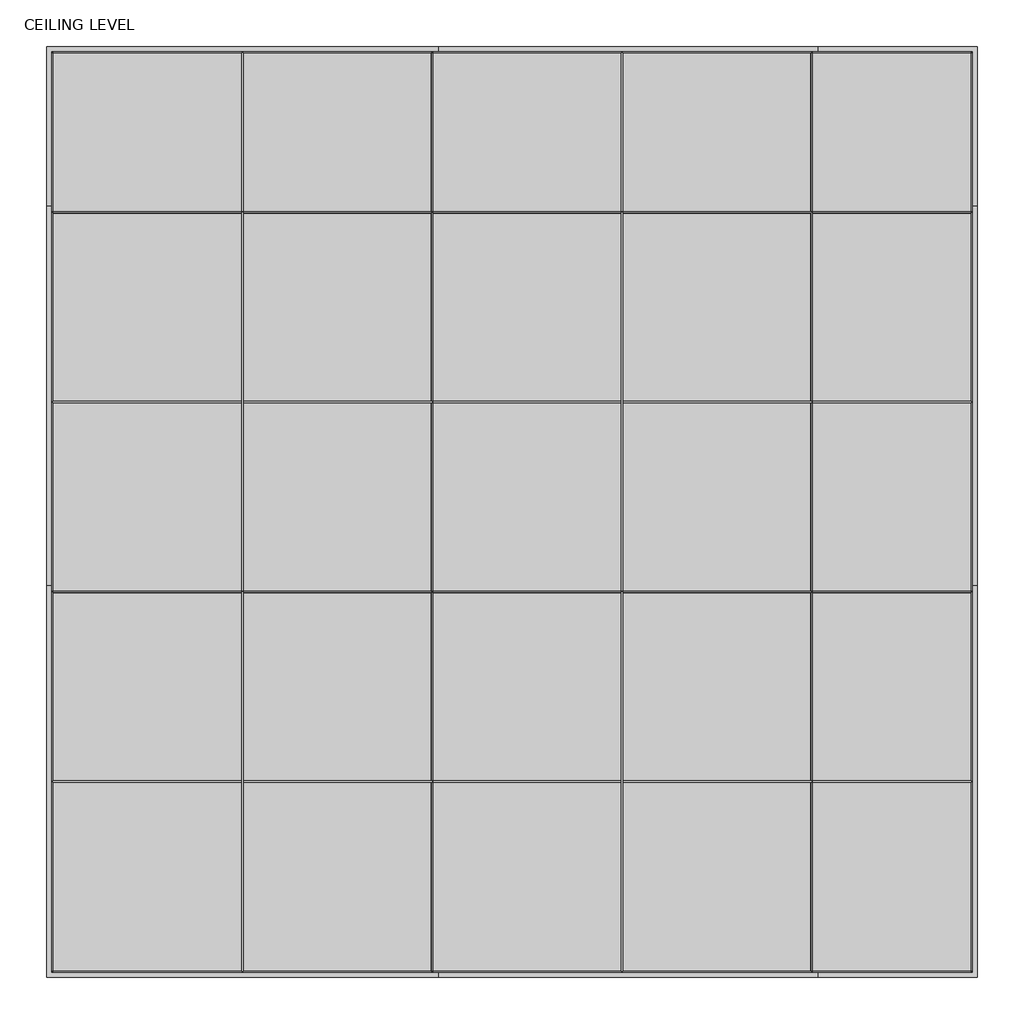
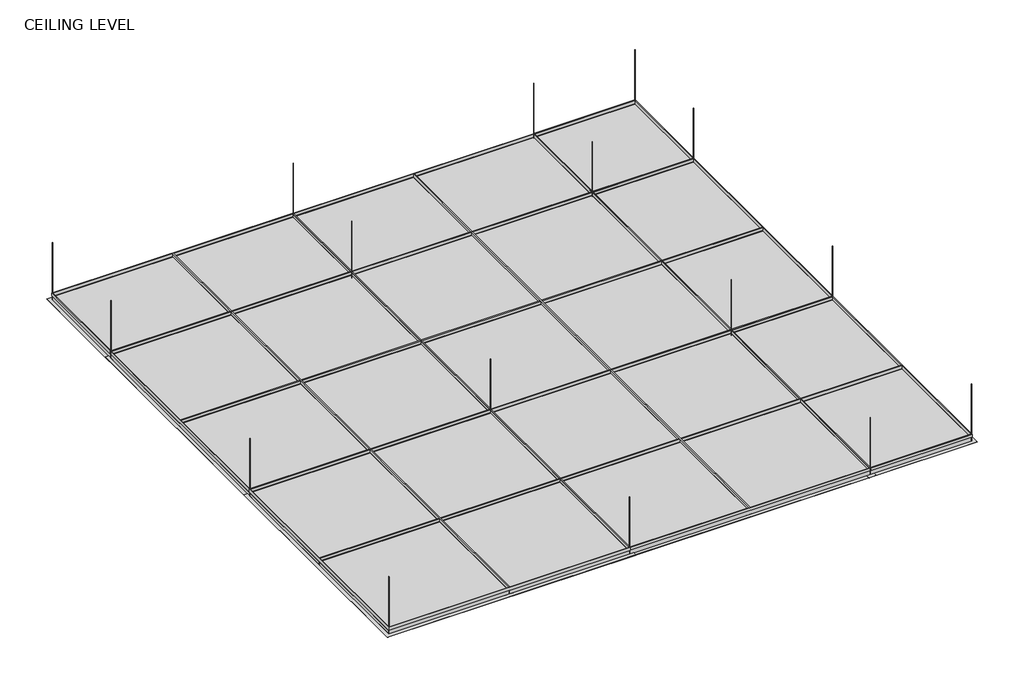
# One storey: 9 plates.
"""IFC4 building model written with IfcOpenShell, lengths in millimetres."""

import ifcopenshell
import ifcopenshell.guid

model = None  # the IFC model being written
_history = None  # IfcOwnerHistory: only IFC2X3 demands one
_inside = {}  # id of a spatial element -> (the spatial element, [elements in it])
_under = {}  # id of a project, library or spatial element -> (it, [spatial elements below it])
_declared = {}  # id of a project -> (the project, [libraries it declares])
_typed = {}  # id of a type object -> (the type object, [elements of that type])
_made_of = {}  # id of a material, layer set ... -> (it, [elements and type objects made of it])


def new_model(schema):
    """Start an empty IFC model of exactly this schema.

    Asked for "IFC4X3", IfcOpenShell would pick the latest addendum, in which some entities
    have other attributes; the version numbers below select the first issue.
    IFC2X3 requires an IfcOwnerHistory on every rooted entity: one is made here for all.
    """
    global model, _history
    if schema == "IFC4X3":
        model = ifcopenshell.file(schema_version=(4, 3, 0, 0))
    else:
        model = ifcopenshell.file(schema=schema)
    _inside.clear()
    _under.clear()
    _declared.clear()
    _typed.clear()
    _made_of.clear()
    _history = None
    if model.schema == "IFC2X3":
        org = make("IfcOrganization", Name="unknown")
        user = make(
            "IfcPersonAndOrganization",
            ThePerson=make("IfcPerson", FamilyName="unknown"),
            TheOrganization=org,
        )
        app = make(
            "IfcApplication",
            ApplicationDeveloper=org,
            Version="unknown",
            ApplicationFullName="unknown",
            ApplicationIdentifier="unknown",
        )
        _history = make(
            "IfcOwnerHistory",
            OwningUser=user,
            OwningApplication=app,
            ChangeAction="ADDED",
            CreationDate=0,
        )
    return model


def make(cls, **values):
    """One entity of the class cls with the attributes given. An attribute that is None is left unset."""
    return model.create_entity(
        cls, **{name: value for name, value in values.items() if value is not None}
    )


def rooted(cls, **values):
    """An entity with a GlobalId (a new one), such as an element, a storey or a relation."""
    return make(cls, GlobalId=ifcopenshell.guid.new(), OwnerHistory=_history, **values)


def si_unit(unit_type, name, prefix=None):
    """IfcSIUnit, for example si_unit("LENGTHUNIT", "METRE", prefix="MILLI")."""
    return make("IfcSIUnit", UnitType=unit_type, Prefix=prefix, Name=name)


def assignment(units):
    """IfcUnitAssignment: the units of a project."""
    return None if units is None else make("IfcUnitAssignment", Units=units)


def point(xyz):
    """IfcCartesianPoint."""
    return None if xyz is None else make("IfcCartesianPoint", Coordinates=xyz)


def direction(xyz):
    """IfcDirection."""
    return None if xyz is None else make("IfcDirection", DirectionRatios=xyz)


def frame(location, z_axis=None, x_axis=None):
    """IfcAxis2Placement3D, a coordinate frame: its origin and axes. An axis left out is left unset."""
    return make(
        "IfcAxis2Placement3D",
        Location=point(location),
        Axis=direction(z_axis),
        RefDirection=direction(x_axis),
    )


def frame_2d(location, x_axis=None):
    """IfcAxis2Placement2D, a coordinate frame in the plane: its origin and x axis."""
    return make(
        "IfcAxis2Placement2D", Location=point(location), RefDirection=direction(x_axis)
    )


def origin():
    """The frame at (0, 0, 0) with its axes left unset."""
    return frame((0.0, 0.0, 0.0))


def origin_with_axes():
    """The frame at (0, 0, 0) with the z axis (0, 0, 1) and the x axis (1, 0, 0) written out."""
    return frame((0.0, 0.0, 0.0), z_axis=(0.0, 0.0, 1.0), x_axis=(1.0, 0.0, 0.0))


def place(relative_to, where):
    """IfcLocalPlacement: puts the frame where relative to a parent placement (None: the world)."""
    return make(
        "IfcLocalPlacement", PlacementRelTo=relative_to, RelativePlacement=where
    )


def context(
    kind, dimensions, precision=None, world=None, true_north=None, identifier=None
):
    """IfcGeometricRepresentationContext, for example the 3D "Model" context."""
    return make(
        "IfcGeometricRepresentationContext",
        ContextIdentifier=identifier,
        ContextType=kind,
        CoordinateSpaceDimension=dimensions,
        Precision=precision,
        WorldCoordinateSystem=world,
        TrueNorth=true_north,
    )


def project(units=None, contexts=None):
    """IfcProject with its units and contexts."""
    return rooted(
        "IfcProject",
        Name="project",
        RepresentationContexts=contexts,
        UnitsInContext=assignment(units),
    )


def spatial(cls, under=None, at=None, **own):
    """A site, building, storey or space (cls), placed at a placement, below another one or the project."""
    s = rooted(cls, ObjectPlacement=at, **own)
    if under is not None:
        _under.setdefault(under.id(), (under, []))[1].append(s)
    return s


def polyline(points):
    """IfcPolyline through the points."""
    return make("IfcPolyline", Points=[point(p) for p in points])


def circle_curve(where, radius):
    """IfcCircle in the frame where."""
    return make("IfcCircle", Position=where, Radius=radius)


def trimmed(basis, trim1, trim2, sense, master):
    """IfcTrimmedCurve: the piece of a basis curve between two trims."""
    return make(
        "IfcTrimmedCurve",
        BasisCurve=basis,
        Trim1=trim1,
        Trim2=trim2,
        SenseAgreement=sense,
        MasterRepresentation=master,
    )


def segment(curve, same_sense, transition):
    """IfcCompositeCurveSegment."""
    return make(
        "IfcCompositeCurveSegment",
        Transition=transition,
        SameSense=same_sense,
        ParentCurve=curve,
    )


def composite_curve(segments, self_intersect=None):
    """IfcCompositeCurve: segments joined end to end."""
    return make("IfcCompositeCurve", Segments=segments, SelfIntersect=self_intersect)


def outline(outer, holes=None, kind="AREA"):
    """IfcArbitraryClosedProfileDef: a profile drawn as a closed curve; with holes, ...WithVoids."""
    if holes is None:
        return make("IfcArbitraryClosedProfileDef", ProfileType=kind, OuterCurve=outer)
    return make(
        "IfcArbitraryProfileDefWithVoids",
        ProfileType=kind,
        OuterCurve=outer,
        InnerCurves=holes,
    )


def extrude(swept, where, along, depth):
    """IfcExtrudedAreaSolid: the profile swept, set in the frame where, extruded along a direction by depth."""
    return make(
        "IfcExtrudedAreaSolid",
        SweptArea=swept,
        Position=where,
        ExtrudedDirection=direction(along),
        Depth=depth,
    )


def faces_of(points, faces, orient=None, outer=None):
    """IfcFace entities. A face is a list of loops; a loop is a list of indices into points, from 0.

    orient and outer hold one flag for each loop. By default every Orientation is true, the
    first loop of a face is its IfcFaceOuterBound and the others are IfcFaceBound.
    """
    made = []
    for i, loops in enumerate(faces):
        bounds = []
        for j, loop in enumerate(loops):
            is_outer = j == 0 if outer is None else outer[i][j]
            bounds.append(
                make(
                    "IfcFaceOuterBound" if is_outer else "IfcFaceBound",
                    Bound=make("IfcPolyLoop", Polygon=[points[k] for k in loop]),
                    Orientation=True if orient is None else orient[i][j],
                )
            )
        made.append(make("IfcFace", Bounds=bounds))
    return made


def faceted_brep(points, faces, orient=None, outer=None, voids=None):
    """IfcFacetedBrep: a solid bounded by flat faces; with voids (closed shells), ...WithVoids."""
    shared = [point(p) for p in points]
    hull = make("IfcClosedShell", CfsFaces=faces_of(shared, faces, orient, outer))
    if voids is None:
        return make("IfcFacetedBrep", Outer=hull)
    return make(
        "IfcFacetedBrepWithVoids",
        Outer=hull,
        Voids=[
            make(cls, CfsFaces=faces_of(shared, fs, o, b)) for cls, fs, o, b in voids
        ],
    )


def shape(context_of_items, identifier, shape_type, items):
    """IfcShapeRepresentation: the items that make up one representation, for example the "Body"."""
    return make(
        "IfcShapeRepresentation",
        ContextOfItems=context_of_items,
        RepresentationIdentifier=identifier,
        RepresentationType=shape_type,
        Items=items,
    )


def source(mapping_origin, context_of_items, identifier, shape_type, items):
    """IfcRepresentationMap: a shape defined once, which mapped items show again and again."""
    return make(
        "IfcRepresentationMap",
        MappingOrigin=mapping_origin,
        MappedRepresentation=shape(context_of_items, identifier, shape_type, items),
    )


def transform(
    local_origin,
    x_axis=None,
    y_axis=None,
    z_axis=None,
    scale=None,
    scale2=None,
    scale3=None,
    uniform=True,
):
    """IfcCartesianTransformationOperator3D, or its non-uniform kind. x_axis, y_axis, z_axis: its Axis1, 2, 3."""
    if uniform:
        return make(
            "IfcCartesianTransformationOperator3D",
            Axis1=direction(x_axis),
            Axis2=direction(y_axis),
            LocalOrigin=point(local_origin),
            Scale=scale,
            Axis3=direction(z_axis),
        )
    return make(
        "IfcCartesianTransformationOperator3DnonUniform",
        Axis1=direction(x_axis),
        Axis2=direction(y_axis),
        LocalOrigin=point(local_origin),
        Scale=scale,
        Axis3=direction(z_axis),
        Scale2=scale2,
        Scale3=scale3,
    )


def mapped(mapping_source, mapping_target):
    """IfcMappedItem: shows the shape of a source again, moved by a transform."""
    return make(
        "IfcMappedItem", MappingSource=mapping_source, MappingTarget=mapping_target
    )


def made_of(thing, what):
    """Note that an element or type object is made of a material, layer set ...; save() writes the relation."""
    if what is not None:
        _made_of.setdefault(what.id(), (what, []))[1].append(thing)
    return thing


def element(
    cls,
    number,
    at=None,
    inside=None,
    cuts=None,
    type_object=None,
    material=None,
    context=None,
    identifier="Body",
    shape_type=None,
    held_by="IfcProductDefinitionShape",
    body=None,
    shapes=None,
    **own,
):
    """One element of the class cls, such as IfcWall. Its Tag is "e" and its number.

    at: its placement. inside: the storey or other place that contains it. cuts: it is an
    opening in that element (IfcRelVoidsElement). A single representation is given by context,
    identifier, shape_type and body (its items); several are given by shapes. held_by: the class
    of the entity that holds the representations. save() writes the other relations.
    """
    e = rooted(cls, Tag="e%d" % number, ObjectPlacement=at, **own)
    if body is not None:
        shapes = [shape(context, identifier, shape_type, body)]
    if shapes is not None:
        e.Representation = make(held_by, Representations=shapes)
    if inside is not None:
        _inside.setdefault(inside.id(), (inside, []))[1].append(e)
    if cuts is not None:
        rooted(
            "IfcRelVoidsElement", RelatingBuildingElement=cuts, RelatedOpeningElement=e
        )
    if type_object is not None:
        _typed.setdefault(type_object.id(), (type_object, []))[1].append(e)
    return made_of(e, material)


def aggregate(whole, parts):
    """IfcRelAggregates: a whole, such as a stair, and the parts it consists of."""
    return rooted("IfcRelAggregates", RelatingObject=whole, RelatedObjects=parts)


def save(model, path):
    """Write the relations noted so far, then the file.

    IfcRelAggregates (storeys below a building ...), IfcRelContainedInSpatialStructure (elements
    in a storey), IfcRelDefinesByType, IfcRelAssociatesMaterial and IfcRelDeclares: one each for
    every whole, place, type object, material and project.
    """
    for whole, parts in _under.values():
        aggregate(whole, parts)
    for where, things in _inside.values():
        rooted(
            "IfcRelContainedInSpatialStructure",
            RelatedElements=things,
            RelatingStructure=where,
        )
    for kind, things in _typed.values():
        rooted("IfcRelDefinesByType", RelatedObjects=things, RelatingType=kind)
    for what, things in _made_of.values():
        rooted("IfcRelAssociatesMaterial", RelatedObjects=things, RelatingMaterial=what)
    for by, libraries in _declared.values():
        rooted("IfcRelDeclares", RelatingContext=by, RelatedDefinitions=libraries)
    model.write(path)


def ceiling_panel_with_tee_and_cable_ties_ceiling_panel_with_tee_5080f121(model_context):
    return source(origin(), model_context, "Body", "SolidModel", [
        extrude(outline(composite_curve([segment(trimmed(circle_curve(frame_2d((1200.0, 600.0000002)), 0.5), [point((1200.0, 600.5000002))], [point((1200.0, 599.5000002))], False, "CARTESIAN"), True, "CONTINUOUS"), segment(trimmed(circle_curve(frame_2d((1200.0, 600.0000002)), 0.5), [point((1200.0, 599.5000002))], [point((1200.0, 600.5000002))], False, "CARTESIAN"), True, "CONTINUOUS")], self_intersect=False)), frame((0.0, -300.0, 0.0), z_axis=(0.0, 1.0, 0.0), x_axis=(0.0, 0.0, 1.0)), (0.0, 0.0, 1.0), 300.0),
        extrude(outline(composite_curve([segment(trimmed(circle_curve(frame_2d((1200.0, -600.0000002)), 0.5), [point((1200.0, -599.5000002))], [point((1200.0, -600.5000002))], False, "CARTESIAN"), True, "CONTINUOUS"), segment(trimmed(circle_curve(frame_2d((1200.0, -600.0000002)), 0.5), [point((1200.0, -600.5000002))], [point((1200.0, -599.5000002))], False, "CARTESIAN"), True, "CONTINUOUS")], self_intersect=False)), frame((0.0, -300.0, 0.0), z_axis=(0.0, 1.0, 0.0), x_axis=(0.0, 0.0, 1.0)), (0.0, 0.0, 1.0), 300.0),
        extrude(outline(composite_curve([segment(trimmed(circle_curve(frame_2d((0.0, 600.0000002)), 0.5), [point((0.0, 600.5000002))], [point((0.0, 599.5000002))], False, "CARTESIAN"), True, "CONTINUOUS"), segment(trimmed(circle_curve(frame_2d((0.0, 600.0000002)), 0.5), [point((0.0, 599.5000002))], [point((0.0, 600.5000002))], False, "CARTESIAN"), True, "CONTINUOUS")], self_intersect=False)), frame((0.0, -300.0, 0.0), z_axis=(0.0, 1.0, 0.0), x_axis=(0.0, 0.0, 1.0)), (0.0, 0.0, 1.0), 300.0),
        extrude(outline(composite_curve([segment(trimmed(circle_curve(frame_2d((0.0, -600.0000002)), 0.5), [point((0.0, -599.5000002))], [point((0.0, -600.5000002))], False, "CARTESIAN"), True, "CONTINUOUS"), segment(trimmed(circle_curve(frame_2d((0.0, -600.0000002)), 0.5), [point((0.0, -600.5000002))], [point((0.0, -599.5000002))], False, "CARTESIAN"), True, "CONTINUOUS")], self_intersect=False)), frame((0.0, -300.0, 0.0), z_axis=(0.0, 1.0, 0.0), x_axis=(0.0, 0.0, 1.0)), (0.0, 0.0, 1.0), 300.0),
        extrude(outline(polyline([(19.0, 2.0), (19.0, 1.0), (0.5, 1.0), (0.5, -20.0), (2.5, -20.0), (2.5, -34.0), (-2.5, -34.0), (-2.5, -20.0), (-0.5, -20.0), (-0.5, 1.0), (-19.0, 1.0), (-19.0, 2.0), (19.0, 2.0)])), origin_with_axes(), (0.0, 0.0, 1.0), 1200.0),
        extrude(outline(polyline([(2.0, 619.0), (2.0, 581.0), (1.0, 581.0), (1.0, 599.5), (-20.0, 599.5), (-20.0, 597.5), (-34.0, 597.5), (-34.0, 602.5), (-20.0, 602.5), (-20.0, 600.5), (1.0, 600.5), (1.0, 619.0), (2.0, 619.0)])), frame((-600.0000002, 0.0, 0.0), z_axis=(1.0, 0.0, 0.0), x_axis=(0.0, 1.0, 0.0)), (0.0, 0.0, 1.0), 1200.0000003),
        faceted_brep([(581.0000002, 1.0, 1181.0), (581.0000002, 2.0, 1181.0), (581.0000002, 2.0, 19.0), (581.0000002, 1.0, 19.0), (599.5000002, -20.0, 1199.5), (599.5000002, 1.0, 1199.5), (599.5000002, 1.0, 0.5), (599.5000002, -20.0, 0.5), (597.5000002, -34.0, 1197.5), (597.5000002, -20.0, 1197.5), (597.5000002, -20.0, 2.5), (597.5000002, -34.0, 2.5), (602.5000002, -20.0, 1202.5), (602.5000002, -34.0, 1202.5), (602.5000002, -34.0, -2.5), (602.5000002, -20.0, -2.5), (600.5000002, 1.0, 1200.5), (600.5000002, -20.0, 1200.5), (600.5000002, -20.0, -0.5), (600.5000002, 1.0, -0.5), (619.0000002, 2.0, 1219.0), (619.0000002, 1.0, 1219.0), (619.0000002, 1.0, -19.0), (619.0000002, 2.0, -19.0), (-581.0000002, 2.0, 19.0), (-581.0000002, 1.0, 19.0), (-599.5000002, 1.0, 0.5), (-599.5000002, -20.0, 0.5), (-597.5000002, -20.0, 2.5), (-597.5000002, -34.0, 2.5), (-602.5000002, -34.0, -2.5), (-602.5000002, -20.0, -2.5), (-600.5000002, -20.0, -0.5), (-600.5000002, 1.0, -0.5), (-619.0000002, 1.0, -19.0), (-619.0000002, 2.0, -19.0), (-581.0000002, 2.0, 1181.0), (-581.0000002, 1.0, 1181.0), (-599.5000002, 1.0, 1199.5), (-599.5000002, -20.0, 1199.5), (-597.5000002, -20.0, 1197.5), (-597.5000002, -34.0, 1197.5), (-602.5000002, -34.0, 1202.5), (-602.5000002, -20.0, 1202.5), (-600.5000002, -20.0, 1200.5), (-600.5000002, 1.0, 1200.5), (-619.0000002, 1.0, 1219.0), (-619.0000002, 2.0, 1219.0)], [[[0, 1, 2, 3]], [[4, 5, 6, 7]], [[8, 9, 10, 11]], [[12, 13, 14, 15]], [[16, 17, 18, 19]], [[20, 21, 22, 23]], [[3, 2, 24, 25]], [[7, 6, 26, 27]], [[11, 10, 28, 29]], [[15, 14, 30, 31]], [[19, 18, 32, 33]], [[23, 22, 34, 35]], [[25, 24, 36, 37]], [[27, 26, 38, 39]], [[29, 28, 40, 41]], [[31, 30, 42, 43]], [[33, 32, 44, 45]], [[35, 34, 46, 47]], [[23, 35, 47, 20], [1, 36, 24, 2]], [[37, 36, 1, 0]], [[5, 38, 26, 6], [3, 25, 37, 0]], [[39, 38, 5, 4]], [[7, 27, 39, 4], [9, 40, 28, 10]], [[41, 40, 9, 8]], [[13, 42, 30, 14], [11, 29, 41, 8]], [[43, 42, 13, 12]], [[15, 31, 43, 12], [17, 44, 32, 18]], [[45, 44, 17, 16]], [[21, 46, 34, 22], [19, 33, 45, 16]], [[47, 46, 21, 20]]]),
        extrude(outline(polyline([(600.0000002, -15.0), (-600.0000002, -15.0), (-600.0000002, 0.0), (600.0000002, 0.0), (600.0000002, -15.0)])), origin_with_axes(), (0.0, 0.0, 1.0), 1200.0),
    ])


def ceiling_panel_with_tee_and_cable_ties_ceiling_panel_with_tee_7c64ddbc(model_context):
    return source(origin(), model_context, "Body", "SolidModel", [
        extrude(outline(composite_curve([segment(trimmed(circle_curve(frame_2d((505.0, 600.0000002)), 0.5), [point((505.0, 600.5000002))], [point((505.0, 599.5000002))], False, "CARTESIAN"), True, "CONTINUOUS"), segment(trimmed(circle_curve(frame_2d((505.0, 600.0000002)), 0.5), [point((505.0, 599.5000002))], [point((505.0, 600.5000002))], False, "CARTESIAN"), True, "CONTINUOUS")], self_intersect=False)), frame((0.0, -300.0, 0.0), z_axis=(0.0, 1.0, 0.0), x_axis=(0.0, 0.0, 1.0)), (0.0, 0.0, 1.0), 300.0),
        extrude(outline(composite_curve([segment(trimmed(circle_curve(frame_2d((505.0, -600.0000002)), 0.5), [point((505.0, -599.5000002))], [point((505.0, -600.5000002))], False, "CARTESIAN"), True, "CONTINUOUS"), segment(trimmed(circle_curve(frame_2d((505.0, -600.0000002)), 0.5), [point((505.0, -600.5000002))], [point((505.0, -599.5000002))], False, "CARTESIAN"), True, "CONTINUOUS")], self_intersect=False)), frame((0.0, -300.0, 0.0), z_axis=(0.0, 1.0, 0.0), x_axis=(0.0, 0.0, 1.0)), (0.0, 0.0, 1.0), 300.0),
        extrude(outline(composite_curve([segment(trimmed(circle_curve(frame_2d((0.0, 600.0000002)), 0.5), [point((0.0, 600.5000002))], [point((0.0, 599.5000002))], False, "CARTESIAN"), True, "CONTINUOUS"), segment(trimmed(circle_curve(frame_2d((0.0, 600.0000002)), 0.5), [point((0.0, 599.5000002))], [point((0.0, 600.5000002))], False, "CARTESIAN"), True, "CONTINUOUS")], self_intersect=False)), frame((0.0, -300.0, 0.0), z_axis=(0.0, 1.0, 0.0), x_axis=(0.0, 0.0, 1.0)), (0.0, 0.0, 1.0), 300.0),
        extrude(outline(composite_curve([segment(trimmed(circle_curve(frame_2d((0.0, -600.0000002)), 0.5), [point((0.0, -599.5000002))], [point((0.0, -600.5000002))], False, "CARTESIAN"), True, "CONTINUOUS"), segment(trimmed(circle_curve(frame_2d((0.0, -600.0000002)), 0.5), [point((0.0, -600.5000002))], [point((0.0, -599.5000002))], False, "CARTESIAN"), True, "CONTINUOUS")], self_intersect=False)), frame((0.0, -300.0, 0.0), z_axis=(0.0, 1.0, 0.0), x_axis=(0.0, 0.0, 1.0)), (0.0, 0.0, 1.0), 300.0),
        extrude(outline(polyline([(19.0, 2.0), (19.0, 1.0), (0.5, 1.0), (0.5, -20.0), (2.5, -20.0), (2.5, -34.0), (-2.5, -34.0), (-2.5, -20.0), (-0.5, -20.0), (-0.5, 1.0), (-19.0, 1.0), (-19.0, 2.0), (19.0, 2.0)])), origin_with_axes(), (0.0, 0.0, 1.0), 505.0),
        faceted_brep([(581.0000002, 1.0, 486.0), (581.0000002, 2.0, 486.0), (581.0000002, 2.0, 19.0), (581.0000002, 1.0, 19.0), (599.5000002, -20.0, 504.5), (599.5000002, 1.0, 504.5), (599.5000002, 1.0, 0.5), (599.5000002, -20.0, 0.5), (597.5000002, -34.0, 502.5), (597.5000002, -20.0, 502.5), (597.5000002, -20.0, 2.5), (597.5000002, -34.0, 2.5), (602.5000002, -20.0, 507.5), (602.5000002, -34.0, 507.5), (602.5000002, -34.0, -2.5), (602.5000002, -20.0, -2.5), (600.5000002, 1.0, 505.5), (600.5000002, -20.0, 505.5), (600.5000002, -20.0, -0.5), (600.5000002, 1.0, -0.5), (619.0000002, 2.0, 524.0), (619.0000002, 1.0, 524.0), (619.0000002, 1.0, -19.0), (619.0000002, 2.0, -19.0), (-581.0000002, 2.0, 19.0), (-581.0000002, 1.0, 19.0), (-599.5000002, 1.0, 0.5), (-599.5000002, -20.0, 0.5), (-597.5000002, -20.0, 2.5), (-597.5000002, -34.0, 2.5), (-602.5000002, -34.0, -2.5), (-602.5000002, -20.0, -2.5), (-600.5000002, -20.0, -0.5), (-600.5000002, 1.0, -0.5), (-619.0000002, 1.0, -19.0), (-619.0000002, 2.0, -19.0), (-581.0000002, 2.0, 486.0), (-581.0000002, 1.0, 486.0), (-599.5000002, 1.0, 504.5), (-599.5000002, -20.0, 504.5), (-597.5000002, -20.0, 502.5), (-597.5000002, -34.0, 502.5), (-602.5000002, -34.0, 507.5), (-602.5000002, -20.0, 507.5), (-600.5000002, -20.0, 505.5), (-600.5000002, 1.0, 505.5), (-619.0000002, 1.0, 524.0), (-619.0000002, 2.0, 524.0)], [[[0, 1, 2, 3]], [[4, 5, 6, 7]], [[8, 9, 10, 11]], [[12, 13, 14, 15]], [[16, 17, 18, 19]], [[20, 21, 22, 23]], [[3, 2, 24, 25]], [[7, 6, 26, 27]], [[11, 10, 28, 29]], [[15, 14, 30, 31]], [[19, 18, 32, 33]], [[23, 22, 34, 35]], [[25, 24, 36, 37]], [[27, 26, 38, 39]], [[29, 28, 40, 41]], [[31, 30, 42, 43]], [[33, 32, 44, 45]], [[35, 34, 46, 47]], [[23, 35, 47, 20], [1, 36, 24, 2]], [[37, 36, 1, 0]], [[5, 38, 26, 6], [3, 25, 37, 0]], [[39, 38, 5, 4]], [[7, 27, 39, 4], [9, 40, 28, 10]], [[41, 40, 9, 8]], [[13, 42, 30, 14], [11, 29, 41, 8]], [[43, 42, 13, 12]], [[15, 31, 43, 12], [17, 44, 32, 18]], [[45, 44, 17, 16]], [[21, 46, 34, 22], [19, 33, 45, 16]], [[47, 46, 21, 20]]]),
        extrude(outline(polyline([(600.0000002, -15.0), (-600.0000002, -15.0), (-600.0000002, 0.0), (600.0000002, 0.0), (600.0000002, -15.0)])), origin_with_axes(), (0.0, 0.0, 1.0), 505.0),
    ])


def ceiling_panel_with_tee_and_cable_ties_ceiling_panel_with_tee_bb24702a(model_context):
    return source(origin(), model_context, "Body", "SolidModel", [
        extrude(outline(composite_curve([segment(trimmed(circle_curve(frame_2d((1200.0, 252.4999998)), 0.5), [point((1200.0, 252.9999998))], [point((1200.0, 251.9999998))], False, "CARTESIAN"), True, "CONTINUOUS"), segment(trimmed(circle_curve(frame_2d((1200.0, 252.4999998)), 0.5), [point((1200.0, 251.9999998))], [point((1200.0, 252.9999998))], False, "CARTESIAN"), True, "CONTINUOUS")], self_intersect=False)), frame((0.0, -300.0, 0.0), z_axis=(0.0, 1.0, 0.0), x_axis=(0.0, 0.0, 1.0)), (0.0, 0.0, 1.0), 300.0),
        extrude(outline(composite_curve([segment(trimmed(circle_curve(frame_2d((1200.0, -252.4999998)), 0.5), [point((1200.0, -251.9999998))], [point((1200.0, -252.9999998))], False, "CARTESIAN"), True, "CONTINUOUS"), segment(trimmed(circle_curve(frame_2d((1200.0, -252.4999998)), 0.5), [point((1200.0, -252.9999998))], [point((1200.0, -251.9999998))], False, "CARTESIAN"), True, "CONTINUOUS")], self_intersect=False)), frame((0.0, -300.0, 0.0), z_axis=(0.0, 1.0, 0.0), x_axis=(0.0, 0.0, 1.0)), (0.0, 0.0, 1.0), 300.0),
        extrude(outline(composite_curve([segment(trimmed(circle_curve(frame_2d((0.0, 252.4999998)), 0.5), [point((0.0, 252.9999998))], [point((0.0, 251.9999998))], False, "CARTESIAN"), True, "CONTINUOUS"), segment(trimmed(circle_curve(frame_2d((0.0, 252.4999998)), 0.5), [point((0.0, 251.9999998))], [point((0.0, 252.9999998))], False, "CARTESIAN"), True, "CONTINUOUS")], self_intersect=False)), frame((0.0, -300.0, 0.0), z_axis=(0.0, 1.0, 0.0), x_axis=(0.0, 0.0, 1.0)), (0.0, 0.0, 1.0), 300.0),
        extrude(outline(composite_curve([segment(trimmed(circle_curve(frame_2d((0.0, -252.4999998)), 0.5), [point((0.0, -251.9999998))], [point((0.0, -252.9999998))], False, "CARTESIAN"), True, "CONTINUOUS"), segment(trimmed(circle_curve(frame_2d((0.0, -252.4999998)), 0.5), [point((0.0, -252.9999998))], [point((0.0, -251.9999998))], False, "CARTESIAN"), True, "CONTINUOUS")], self_intersect=False)), frame((0.0, -300.0, 0.0), z_axis=(0.0, 1.0, 0.0), x_axis=(0.0, 0.0, 1.0)), (0.0, 0.0, 1.0), 300.0),
        extrude(outline(polyline([(2.0, 619.0), (2.0, 581.0), (1.0, 581.0), (1.0, 599.5), (-20.0, 599.5), (-20.0, 597.5), (-34.0, 597.5), (-34.0, 602.5), (-20.0, 602.5), (-20.0, 600.5), (1.0, 600.5), (1.0, 619.0), (2.0, 619.0)])), frame((-252.4999998, 0.0, 0.0), z_axis=(1.0, 0.0, 0.0), x_axis=(0.0, 1.0, 0.0)), (0.0, 0.0, 1.0), 504.9999997),
        faceted_brep([(233.4999998, 1.0, 1181.0), (233.4999998, 2.0, 1181.0), (233.4999998, 2.0, 19.0), (233.4999998, 1.0, 19.0), (251.9999998, -20.0, 1199.5), (251.9999998, 1.0, 1199.5), (251.9999998, 1.0, 0.5), (251.9999998, -20.0, 0.5), (249.9999998, -34.0, 1197.5), (249.9999998, -20.0, 1197.5), (249.9999998, -20.0, 2.5), (249.9999998, -34.0, 2.5), (254.9999998, -20.0, 1202.5), (254.9999998, -34.0, 1202.5), (254.9999998, -34.0, -2.5), (254.9999998, -20.0, -2.5), (252.9999998, 1.0, 1200.5), (252.9999998, -20.0, 1200.5), (252.9999998, -20.0, -0.5), (252.9999998, 1.0, -0.5), (271.4999998, 2.0, 1219.0), (271.4999998, 1.0, 1219.0), (271.4999998, 1.0, -19.0), (271.4999998, 2.0, -19.0), (-233.4999998, 2.0, 19.0), (-233.4999998, 1.0, 19.0), (-251.9999998, 1.0, 0.5), (-251.9999998, -20.0, 0.5), (-249.9999998, -20.0, 2.5), (-249.9999998, -34.0, 2.5), (-254.9999998, -34.0, -2.5), (-254.9999998, -20.0, -2.5), (-252.9999998, -20.0, -0.5), (-252.9999998, 1.0, -0.5), (-271.4999998, 1.0, -19.0), (-271.4999998, 2.0, -19.0), (-233.4999998, 2.0, 1181.0), (-233.4999998, 1.0, 1181.0), (-251.9999998, 1.0, 1199.5), (-251.9999998, -20.0, 1199.5), (-249.9999998, -20.0, 1197.5), (-249.9999998, -34.0, 1197.5), (-254.9999998, -34.0, 1202.5), (-254.9999998, -20.0, 1202.5), (-252.9999998, -20.0, 1200.5), (-252.9999998, 1.0, 1200.5), (-271.4999998, 1.0, 1219.0), (-271.4999998, 2.0, 1219.0)], [[[0, 1, 2, 3]], [[4, 5, 6, 7]], [[8, 9, 10, 11]], [[12, 13, 14, 15]], [[16, 17, 18, 19]], [[20, 21, 22, 23]], [[3, 2, 24, 25]], [[7, 6, 26, 27]], [[11, 10, 28, 29]], [[15, 14, 30, 31]], [[19, 18, 32, 33]], [[23, 22, 34, 35]], [[25, 24, 36, 37]], [[27, 26, 38, 39]], [[29, 28, 40, 41]], [[31, 30, 42, 43]], [[33, 32, 44, 45]], [[35, 34, 46, 47]], [[23, 35, 47, 20], [1, 36, 24, 2]], [[37, 36, 1, 0]], [[5, 38, 26, 6], [3, 25, 37, 0]], [[39, 38, 5, 4]], [[7, 27, 39, 4], [9, 40, 28, 10]], [[41, 40, 9, 8]], [[13, 42, 30, 14], [11, 29, 41, 8]], [[43, 42, 13, 12]], [[15, 31, 43, 12], [17, 44, 32, 18]], [[45, 44, 17, 16]], [[21, 46, 34, 22], [19, 33, 45, 16]], [[47, 46, 21, 20]]]),
        extrude(outline(polyline([(252.4999998, -15.0), (-252.4999998, -15.0), (-252.4999998, 0.0), (252.4999998, 0.0), (252.4999998, -15.0)])), origin_with_axes(), (0.0, 0.0, 1.0), 1200.0),
    ])


def ceiling_panel_with_tee_and_cable_ties_ceiling_panel_with_tee_1653b4b1(model_context):
    return source(origin(), model_context, "Body", "SolidModel", [
        extrude(outline(composite_curve([segment(trimmed(circle_curve(frame_2d((505.0, 252.4999998)), 0.5), [point((505.0, 252.9999998))], [point((505.0, 251.9999998))], False, "CARTESIAN"), True, "CONTINUOUS"), segment(trimmed(circle_curve(frame_2d((505.0, 252.4999998)), 0.5), [point((505.0, 251.9999998))], [point((505.0, 252.9999998))], False, "CARTESIAN"), True, "CONTINUOUS")], self_intersect=False)), frame((0.0, -300.0, 0.0), z_axis=(0.0, 1.0, 0.0), x_axis=(0.0, 0.0, 1.0)), (0.0, 0.0, 1.0), 300.0),
        extrude(outline(composite_curve([segment(trimmed(circle_curve(frame_2d((505.0, -252.4999998)), 0.5), [point((505.0, -251.9999998))], [point((505.0, -252.9999998))], False, "CARTESIAN"), True, "CONTINUOUS"), segment(trimmed(circle_curve(frame_2d((505.0, -252.4999998)), 0.5), [point((505.0, -252.9999998))], [point((505.0, -251.9999998))], False, "CARTESIAN"), True, "CONTINUOUS")], self_intersect=False)), frame((0.0, -300.0, 0.0), z_axis=(0.0, 1.0, 0.0), x_axis=(0.0, 0.0, 1.0)), (0.0, 0.0, 1.0), 300.0),
        extrude(outline(composite_curve([segment(trimmed(circle_curve(frame_2d((0.0, 252.4999998)), 0.5), [point((0.0, 252.9999998))], [point((0.0, 251.9999998))], False, "CARTESIAN"), True, "CONTINUOUS"), segment(trimmed(circle_curve(frame_2d((0.0, 252.4999998)), 0.5), [point((0.0, 251.9999998))], [point((0.0, 252.9999998))], False, "CARTESIAN"), True, "CONTINUOUS")], self_intersect=False)), frame((0.0, -300.0, 0.0), z_axis=(0.0, 1.0, 0.0), x_axis=(0.0, 0.0, 1.0)), (0.0, 0.0, 1.0), 300.0),
        extrude(outline(composite_curve([segment(trimmed(circle_curve(frame_2d((0.0, -252.4999998)), 0.5), [point((0.0, -251.9999998))], [point((0.0, -252.9999998))], False, "CARTESIAN"), True, "CONTINUOUS"), segment(trimmed(circle_curve(frame_2d((0.0, -252.4999998)), 0.5), [point((0.0, -252.9999998))], [point((0.0, -251.9999998))], False, "CARTESIAN"), True, "CONTINUOUS")], self_intersect=False)), frame((0.0, -300.0, 0.0), z_axis=(0.0, 1.0, 0.0), x_axis=(0.0, 0.0, 1.0)), (0.0, 0.0, 1.0), 300.0),
        faceted_brep([(233.4999998, 1.0, 486.0), (233.4999998, 2.0, 486.0), (233.4999998, 2.0, 19.0), (233.4999998, 1.0, 19.0), (251.9999998, -20.0, 504.5), (251.9999998, 1.0, 504.5), (251.9999998, 1.0, 0.5), (251.9999998, -20.0, 0.5), (249.9999998, -34.0, 502.5), (249.9999998, -20.0, 502.5), (249.9999998, -20.0, 2.5), (249.9999998, -34.0, 2.5), (254.9999998, -20.0, 507.5), (254.9999998, -34.0, 507.5), (254.9999998, -34.0, -2.5), (254.9999998, -20.0, -2.5), (252.9999998, 1.0, 505.5), (252.9999998, -20.0, 505.5), (252.9999998, -20.0, -0.5), (252.9999998, 1.0, -0.5), (271.4999998, 2.0, 524.0), (271.4999998, 1.0, 524.0), (271.4999998, 1.0, -19.0), (271.4999998, 2.0, -19.0), (-233.4999998, 2.0, 19.0), (-233.4999998, 1.0, 19.0), (-251.9999998, 1.0, 0.5), (-251.9999998, -20.0, 0.5), (-249.9999998, -20.0, 2.5), (-249.9999998, -34.0, 2.5), (-254.9999998, -34.0, -2.5), (-254.9999998, -20.0, -2.5), (-252.9999998, -20.0, -0.5), (-252.9999998, 1.0, -0.5), (-271.4999998, 1.0, -19.0), (-271.4999998, 2.0, -19.0), (-233.4999998, 2.0, 486.0), (-233.4999998, 1.0, 486.0), (-251.9999998, 1.0, 504.5), (-251.9999998, -20.0, 504.5), (-249.9999998, -20.0, 502.5), (-249.9999998, -34.0, 502.5), (-254.9999998, -34.0, 507.5), (-254.9999998, -20.0, 507.5), (-252.9999998, -20.0, 505.5), (-252.9999998, 1.0, 505.5), (-271.4999998, 1.0, 524.0), (-271.4999998, 2.0, 524.0)], [[[0, 1, 2, 3]], [[4, 5, 6, 7]], [[8, 9, 10, 11]], [[12, 13, 14, 15]], [[16, 17, 18, 19]], [[20, 21, 22, 23]], [[3, 2, 24, 25]], [[7, 6, 26, 27]], [[11, 10, 28, 29]], [[15, 14, 30, 31]], [[19, 18, 32, 33]], [[23, 22, 34, 35]], [[25, 24, 36, 37]], [[27, 26, 38, 39]], [[29, 28, 40, 41]], [[31, 30, 42, 43]], [[33, 32, 44, 45]], [[35, 34, 46, 47]], [[23, 35, 47, 20], [1, 36, 24, 2]], [[37, 36, 1, 0]], [[5, 38, 26, 6], [3, 25, 37, 0]], [[39, 38, 5, 4]], [[7, 27, 39, 4], [9, 40, 28, 10]], [[41, 40, 9, 8]], [[13, 42, 30, 14], [11, 29, 41, 8]], [[43, 42, 13, 12]], [[15, 31, 43, 12], [17, 44, 32, 18]], [[45, 44, 17, 16]], [[21, 46, 34, 22], [19, 33, 45, 16]], [[47, 46, 21, 20]]]),
        extrude(outline(polyline([(252.4999998, -15.0), (-252.4999998, -15.0), (-252.4999998, 0.0), (252.4999998, 0.0), (252.4999998, -15.0)])), origin_with_axes(), (0.0, 0.0, 1.0), 505.0),
    ])


model = new_model("IFC4")

# Units and contexts
model_context = context("Model", 3, world=origin())
ifc_project = project(units=[si_unit("LENGTHUNIT", "METRE", prefix="MILLI")], contexts=[model_context])

# Site, building, storey
site = spatial("IfcSite", under=ifc_project)
building = spatial("IfcBuilding", under=site)
storey = spatial("IfcBuildingStorey", under=building, Name="CEILING LEVEL", Elevation=3000.0)

# Plates
placement = place(None, origin())
ceiling_panel_with_tee_and_cable_ties_ceiling_panel_with_tee_shape = ceiling_panel_with_tee_and_cable_ties_ceiling_panel_with_tee_5080f121(model_context)
element("IfcPlate", 1, ObjectType="Ceiling Panel with Tee and Cable Ties : Ceiling Panel with Tee and Cable Ties", at=placement, inside=storey, context=model_context, shape_type="MappedRepresentation", body=[
    mapped(ceiling_panel_with_tee_and_cable_ties_ceiling_panel_with_tee_shape, transform((-441.7221627, -27755.6917524, 3000.0), x_axis=(1.0, 0.0, 0.0), y_axis=(0.0, 0.0, -1.0), z_axis=(0.0, 1.0, 0.0))),
])
element("IfcPlate", 2, ObjectType="Ceiling Panel with Tee and Cable Ties : Ceiling Panel with Tee and Cable Ties", at=placement, inside=storey, context=model_context, shape_type="MappedRepresentation", body=[
    mapped(ceiling_panel_with_tee_and_cable_ties_ceiling_panel_with_tee_shape, transform((758.2778375, -27755.6917524, 3000.0), x_axis=(1.0, 0.0, 0.0), y_axis=(0.0, 0.0, -1.0), z_axis=(0.0, 1.0, 0.0))),
])
element("IfcPlate", 3, ObjectType="Ceiling Panel with Tee and Cable Ties : Ceiling Panel with Tee and Cable Ties", at=placement, inside=storey, context=model_context, shape_type="MappedRepresentation", body=[
    mapped(ceiling_panel_with_tee_and_cable_ties_ceiling_panel_with_tee_shape, transform((-441.7221627, -26555.6917524, 3000.0), x_axis=(1.0, 0.0, 0.0), y_axis=(0.0, 0.0, -1.0), z_axis=(0.0, 1.0, 0.0))),
])
element("IfcPlate", 4, ObjectType="Ceiling Panel with Tee and Cable Ties : Ceiling Panel with Tee and Cable Ties", at=placement, inside=storey, context=model_context, shape_type="MappedRepresentation", body=[
    mapped(ceiling_panel_with_tee_and_cable_ties_ceiling_panel_with_tee_shape, transform((758.2778375, -26555.6917524, 3000.0), x_axis=(1.0, 0.0, 0.0), y_axis=(0.0, 0.0, -1.0), z_axis=(0.0, 1.0, 0.0))),
])
ceiling_panel_with_tee_and_cable_ties_ceiling_panel_with_tee_2_shape = ceiling_panel_with_tee_and_cable_ties_ceiling_panel_with_tee_7c64ddbc(model_context)
element("IfcPlate", 5, ObjectType="Ceiling Panel with Tee and Cable Ties : Ceiling Panel with Tee and Cable Ties Edge", at=placement, inside=storey, context=model_context, shape_type="MappedRepresentation", body=[
    mapped(ceiling_panel_with_tee_and_cable_ties_ceiling_panel_with_tee_2_shape, transform((-441.7221627, -25355.6917524, 3000.0), x_axis=(1.0, 0.0, 0.0), y_axis=(0.0, 0.0, -1.0), z_axis=(0.0, 1.0, 0.0))),
])
element("IfcPlate", 6, ObjectType="Ceiling Panel with Tee and Cable Ties : Ceiling Panel with Tee and Cable Ties Edge", at=placement, inside=storey, context=model_context, shape_type="MappedRepresentation", body=[
    mapped(ceiling_panel_with_tee_and_cable_ties_ceiling_panel_with_tee_2_shape, transform((758.2778375, -25355.6917524, 3000.0), x_axis=(1.0, 0.0, 0.0), y_axis=(0.0, 0.0, -1.0), z_axis=(0.0, 1.0, 0.0))),
])
ceiling_panel_with_tee_and_cable_ties_ceiling_panel_with_tee_3_shape = ceiling_panel_with_tee_and_cable_ties_ceiling_panel_with_tee_bb24702a(model_context)
element("IfcPlate", 7, ObjectType="Ceiling Panel with Tee and Cable Ties : Ceiling Panel with Tee and Cable Ties Edge 2", at=placement, inside=storey, context=model_context, shape_type="MappedRepresentation", body=[
    mapped(ceiling_panel_with_tee_and_cable_ties_ceiling_panel_with_tee_3_shape, transform((1610.7778373, -27755.6917524, 3000.0), x_axis=(1.0, 0.0, 0.0), y_axis=(0.0, 0.0, -1.0), z_axis=(0.0, 1.0, 0.0))),
])
element("IfcPlate", 8, ObjectType="Ceiling Panel with Tee and Cable Ties : Ceiling Panel with Tee and Cable Ties Edge 2", at=placement, inside=storey, context=model_context, shape_type="MappedRepresentation", body=[
    mapped(ceiling_panel_with_tee_and_cable_ties_ceiling_panel_with_tee_3_shape, transform((1610.7778373, -26555.6917524, 3000.0), x_axis=(1.0, 0.0, 0.0), y_axis=(0.0, 0.0, -1.0), z_axis=(0.0, 1.0, 0.0))),
])
ceiling_panel_with_tee_and_cable_ties_ceiling_panel_with_tee_4_shape = ceiling_panel_with_tee_and_cable_ties_ceiling_panel_with_tee_1653b4b1(model_context)
element("IfcPlate", 9, ObjectType="Ceiling Panel with Tee and Cable Ties : Ceiling Panel with Tee and Cable Ties Edge 3", at=placement, inside=storey, context=model_context, shape_type="MappedRepresentation", body=[
    mapped(ceiling_panel_with_tee_and_cable_ties_ceiling_panel_with_tee_4_shape, transform((1610.7778373, -25355.6917524, 3000.0), x_axis=(1.0, 0.0, 0.0), y_axis=(0.0, 0.0, -1.0), z_axis=(0.0, 1.0, 0.0))),
])

save(model, "model.ifc")
